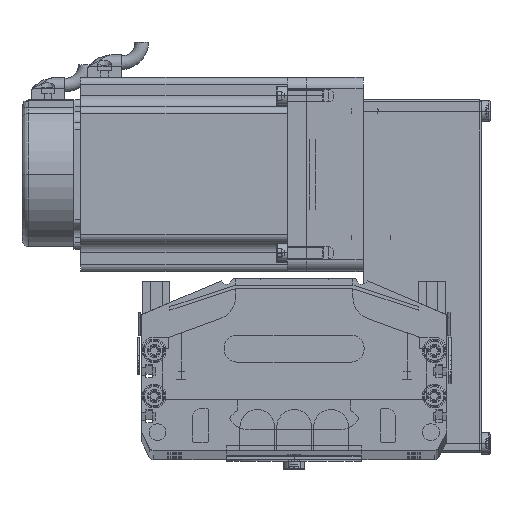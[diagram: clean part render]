
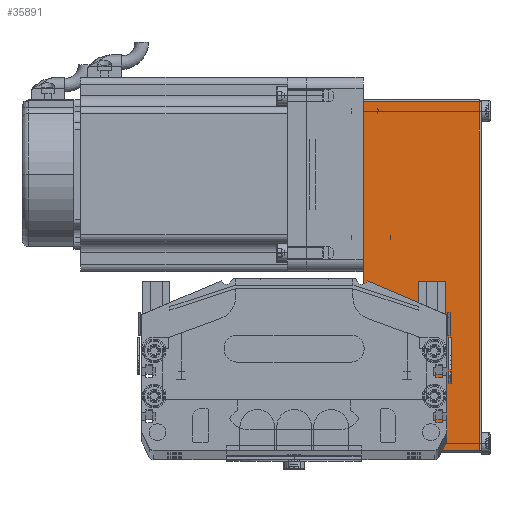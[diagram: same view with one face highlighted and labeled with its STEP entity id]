
A CAD part, top view. The second image highlights one B-rep face of the part: STEP entity #35891.
In plain terms, the highlighted planar face has unit normal (0, 0, 1) as drawn and (0, -1, 0) by its records, which use the part's own axes.
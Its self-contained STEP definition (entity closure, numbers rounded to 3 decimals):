
#35891 = ADVANCED_FACE ( 'NONE', ( #81838 ), #82074, .F. ) ;
#35897 = ORIENTED_EDGE ( 'NONE', *, *, #76179, .T. ) ;
#35901 = VERTEX_POINT ( 'NONE', #81862 ) ;
#35904 = ORIENTED_EDGE ( 'NONE', *, *, #36357, .T. ) ;
#35905 = VERTEX_POINT ( 'NONE', #81860 ) ;
#35974 = EDGE_CURVE ( 'NONE', #35901, #35905, #81971, .T. ) ;
#35993 = EDGE_CURVE ( 'NONE', #35905, #76271, #82062, .T. ) ;
#36103 = ORIENTED_EDGE ( 'NONE', *, *, #35993, .T. ) ;
#36118 = EDGE_LOOP ( 'NONE', ( #35897, #35904, #36290, #36103 ) ) ;
#36290 = ORIENTED_EDGE ( 'NONE', *, *, #35974, .T. ) ;
#36357 = EDGE_CURVE ( 'NONE', #76272, #35901, #82612, .T. ) ;
#69489 = LINE ( 'NONE', #69501, #69579 ) ;
#69501 = CARTESIAN_POINT ( 'NONE',  ( 32., -40., 0. ) ) ;
#69577 = DIRECTION ( 'NONE',  ( 1., 0., 0. ) ) ;
#69579 = VECTOR ( 'NONE', #69577, 1000. ) ;
#69677 = CARTESIAN_POINT ( 'NONE',  ( -123.2, -40., 0. ) ) ;
#70128 = CARTESIAN_POINT ( 'NONE',  ( 31., -40., 0. ) ) ;
#76179 = EDGE_CURVE ( 'NONE', #76271, #76272, #69489, .T. ) ;
#76271 = VERTEX_POINT ( 'NONE', #69677 ) ;
#76272 = VERTEX_POINT ( 'NONE', #70128 ) ;
#81799 = DIRECTION ( 'NONE',  ( -1., 0., 0. ) ) ;
#81800 = DIRECTION ( 'NONE',  ( 0., 1., 0. ) ) ;
#81801 = CARTESIAN_POINT ( 'NONE',  ( 32., -40., 52.5 ) ) ;
#81804 = VECTOR ( 'NONE', #81941, 1000. ) ;
#81838 = FACE_OUTER_BOUND ( 'NONE', #36118, .T. ) ;
#81860 = CARTESIAN_POINT ( 'NONE',  ( -123.2, -40., 51.5 ) ) ;
#81862 = CARTESIAN_POINT ( 'NONE',  ( 31., -40., 51.5 ) ) ;
#81922 = CARTESIAN_POINT ( 'NONE',  ( -123.2, -40., 52.5 ) ) ;
#81940 = VECTOR ( 'NONE', #82063, 1000. ) ;
#81941 = DIRECTION ( 'NONE',  ( 0., 0., -1. ) ) ;
#81971 = LINE ( 'NONE', #82004, #81940 ) ;
#82004 = CARTESIAN_POINT ( 'NONE',  ( 32., -40., 51.5 ) ) ;
#82062 = LINE ( 'NONE', #81922, #81804 ) ;
#82063 = DIRECTION ( 'NONE',  ( -1., 0., 0. ) ) ;
#82074 = PLANE ( 'NONE',  #82078 ) ;
#82078 = AXIS2_PLACEMENT_3D ( 'NONE', #81801, #81800, #81799 ) ;
#82464 = DIRECTION ( 'NONE',  ( 0., 0., 1. ) ) ;
#82465 = VECTOR ( 'NONE', #82464, 1000. ) ;
#82466 = CARTESIAN_POINT ( 'NONE',  ( 31., -40., 52.5 ) ) ;
#82612 = LINE ( 'NONE', #82466, #82465 ) ;
